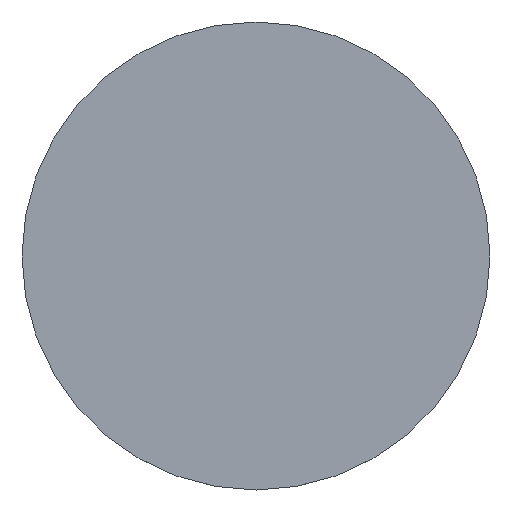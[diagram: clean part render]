
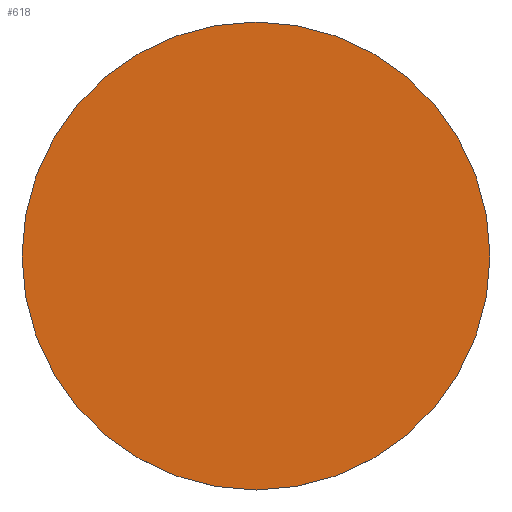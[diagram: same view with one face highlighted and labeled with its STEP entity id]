
A CAD part, top view. The second image highlights one B-rep face of the part: STEP entity #618.
In plain terms, the highlighted planar face has unit normal (0, 0, 1).
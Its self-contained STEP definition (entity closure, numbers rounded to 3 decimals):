
#183=FACE_OUTER_BOUND('',#1161,.T.);
#618=ADVANCED_FACE('',(#183),#727,.T.);
#727=PLANE('',#2589);
#1161=EDGE_LOOP('',(#1439));
#1439=ORIENTED_EDGE('',*,*,#2051,.T.);
#1846=VERTEX_POINT('',#3828);
#2051=EDGE_CURVE('',#1846,#1846,#2304,.T.);
#2304=CIRCLE('',#2588,600.);
#2588=AXIS2_PLACEMENT_3D('',#3827,#3146,#3147);
#2589=AXIS2_PLACEMENT_3D('',#3829,#3148,#3149);
#3146=DIRECTION('',(0.,0.,1.));
#3147=DIRECTION('',(1.,0.,0.));
#3148=DIRECTION('',(0.,0.,1.));
#3149=DIRECTION('',(1.,0.,0.));
#3827=CARTESIAN_POINT('',(0.,0.,739.));
#3828=CARTESIAN_POINT('',(600.,0.,739.));
#3829=CARTESIAN_POINT('',(0.,0.,739.));
